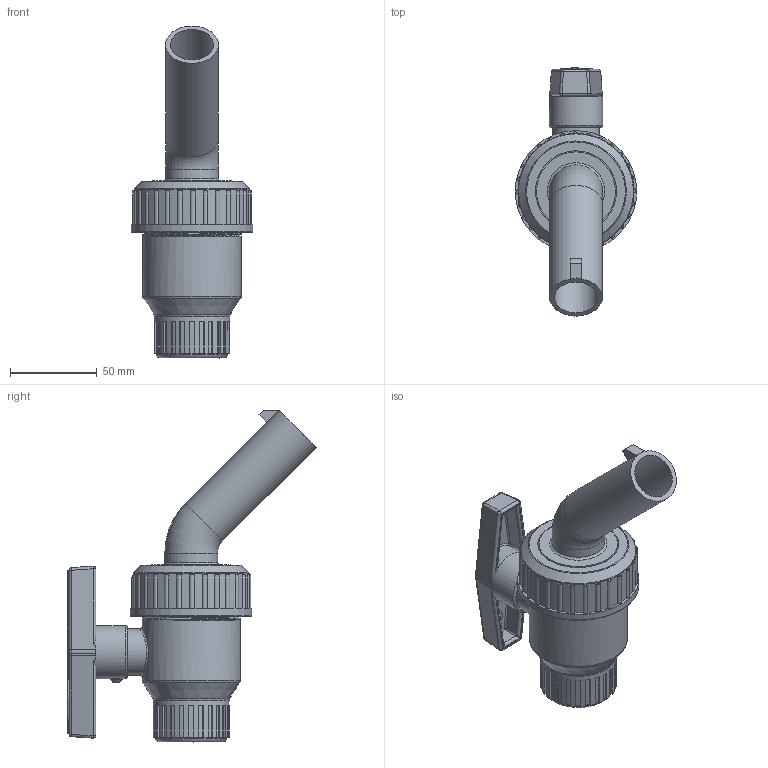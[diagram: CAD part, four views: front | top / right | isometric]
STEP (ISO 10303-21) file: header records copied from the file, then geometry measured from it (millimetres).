
FILE_DESCRIPTION(/* description */ ('Alibre Inc.'),/* implementation_level */ '2;1');
FILE_NAME(/* name */ 'export0',/* time_stamp */ '2017-08-28T10:01:48-04:00',/* author */ (''),/* organization */ (''),/* preprocessor_version */ 'ST-DEVELOPER v14',/* originating_system */ 'Alibre',/* authorisation */ '');
FILE_SCHEMA (('CONFIG_CONTROL_DESIGN'));
Length unit declared in the file: centimetre
Products named in the file (13): ID_1; ID_2; ID_3; ID_4; ID_5; ID_6; ID_7; ID_8; ID_9; ID_10
Bounding box: 70.1 x 143.28 x 191.46 mm (x, y, z)
Volume: 241683.9 mm3; surface area: 116171.5 mm2
Topology: 14 solids, 14 shells, 701 faces, 1829 edges, 1167 vertices
Faces by surface type: plane 308, cylinder 192, bspline 79, cone 67, torus 32, sphere 23
Full cylindrical faces by diameter (mm): 3.302 x1, 11.049 x1, 11.176 x1, 14.224 x2, 14.275 x1, 24.13 x1, 24.333 x1, 24.968 x2, 25.146 x1, 26.975 x1, 27.503 x1, 27.686 x1, 28.042 x2, 30.48 x2, 30.734 x1, 30.988 x1, 33.223 x2, 33.833 x2, 38.887 x1, 40.589 x1, 41.148 x1, 43.688 x1, 45.466 x1, 45.542 x2, 45.593 x1, 46.736 x1, 53.543 x1, 56.642 x9, 66.802 x1, 70.104 x1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
Entity records: 55707 total; most frequent: CARTESIAN_POINT 39885, ORIENTED_EDGE 3376, DIRECTION 2381, EDGE_CURVE 1687, VERTEX_POINT 1115, AXIS2_PLACEMENT_3D 977, FACE_BOUND 791, EDGE_LOOP 788
